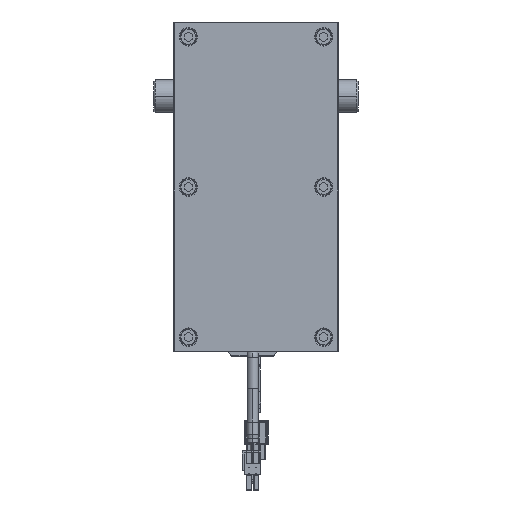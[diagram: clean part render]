
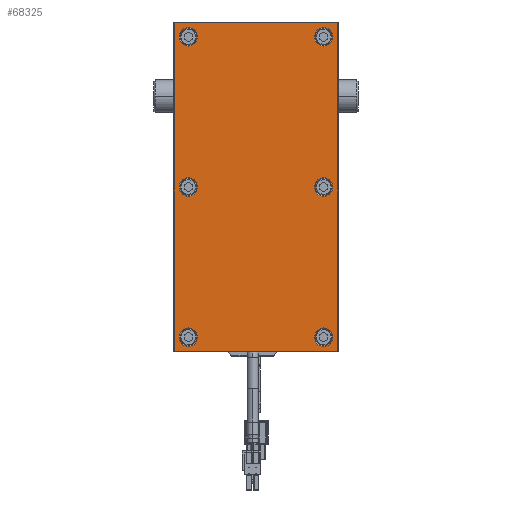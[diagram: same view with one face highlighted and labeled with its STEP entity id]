
A CAD part, front view. The second image highlights one B-rep face of the part: STEP entity #68325.
In plain terms, the highlighted planar face has unit normal (0, -1, 0).
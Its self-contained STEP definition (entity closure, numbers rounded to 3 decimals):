
#66914=CARTESIAN_POINT('',(99.,-7.,-49.));
#66915=DIRECTION('',(0.,-1.,0.));
#66916=DIRECTION('',(0.,0.,-1.));
#66917=AXIS2_PLACEMENT_3D('',#66914,#66915,#66916);
#66919=DIRECTION('',(1.,0.,0.));
#66920=VECTOR('',#66919,198.);
#66921=CARTESIAN_POINT('',(-99.,-7.,
-49.5));
#66922=LINE('',#66921,#66920);
#66923=CARTESIAN_POINT('',(-99.,-7.,-49.));
#66924=DIRECTION('',(0.,-1.,0.));
#66925=DIRECTION('',(-1.,0.,0.));
#66926=AXIS2_PLACEMENT_3D('',#66923,#66924,#66925);
#66928=DIRECTION('',(0.,0.,-1.));
#66929=VECTOR('',#66928,98.);
#66930=CARTESIAN_POINT('',(-99.5,-7.,
49.));
#66931=LINE('',#66930,#66929);
#66932=CARTESIAN_POINT('',(-99.,-7.,49.));
#66933=DIRECTION('',(0.,-1.,0.));
#66934=DIRECTION('',(0.,0.,1.));
#66935=AXIS2_PLACEMENT_3D('',#66932,#66933,#66934);
#66937=DIRECTION('',(-1.,0.,0.));
#66938=VECTOR('',#66937,198.);
#66939=CARTESIAN_POINT('',(99.,-7.,
49.5));
#66940=LINE('',#66939,#66938);
#66941=CARTESIAN_POINT('',(99.,-7.,49.));
#66942=DIRECTION('',(0.,-1.,0.));
#66943=DIRECTION('',(1.,0.,0.));
#66944=AXIS2_PLACEMENT_3D('',#66941,#66942,#66943);
#66946=DIRECTION('',(0.,0.,1.));
#66947=VECTOR('',#66946,98.);
#66948=CARTESIAN_POINT('',(99.5,-7.,
-49.));
#66949=LINE('',#66948,#66947);
#66950=CARTESIAN_POINT('',(-91.,-7.,-41.));
#66951=DIRECTION('',(0.,1.,0.));
#66952=DIRECTION('',(1.,0.,0.));
#66953=AXIS2_PLACEMENT_3D('',#66950,#66951,#66952);
#66955=CARTESIAN_POINT('',(-91.,-7.,-41.));
#66956=DIRECTION('',(0.,1.,0.));
#66957=DIRECTION('',(-1.,0.,0.));
#66958=AXIS2_PLACEMENT_3D('',#66955,#66956,#66957);
#66960=CARTESIAN_POINT('',(0.,-7.,-41.));
#66961=DIRECTION('',(0.,1.,0.));
#66962=DIRECTION('',(1.,0.,0.));
#66963=AXIS2_PLACEMENT_3D('',#66960,#66961,#66962);
#66965=CARTESIAN_POINT('',(0.,-7.,-41.));
#66966=DIRECTION('',(0.,1.,0.));
#66967=DIRECTION('',(-1.,0.,0.));
#66968=AXIS2_PLACEMENT_3D('',#66965,#66966,#66967);
#66970=CARTESIAN_POINT('',(91.,-7.,-41.));
#66971=DIRECTION('',(0.,1.,0.));
#66972=DIRECTION('',(1.,0.,0.));
#66973=AXIS2_PLACEMENT_3D('',#66970,#66971,#66972);
#66975=CARTESIAN_POINT('',(91.,-7.,-41.));
#66976=DIRECTION('',(0.,1.,0.));
#66977=DIRECTION('',(-1.,0.,0.));
#66978=AXIS2_PLACEMENT_3D('',#66975,#66976,#66977);
#66980=CARTESIAN_POINT('',(91.,-7.,41.));
#66981=DIRECTION('',(0.,1.,0.));
#66982=DIRECTION('',(1.,0.,0.));
#66983=AXIS2_PLACEMENT_3D('',#66980,#66981,#66982);
#66985=CARTESIAN_POINT('',(91.,-7.,41.));
#66986=DIRECTION('',(0.,1.,0.));
#66987=DIRECTION('',(-1.,0.,0.));
#66988=AXIS2_PLACEMENT_3D('',#66985,#66986,#66987);
#66990=CARTESIAN_POINT('',(0.,-7.,41.));
#66991=DIRECTION('',(0.,1.,0.));
#66992=DIRECTION('',(1.,0.,0.));
#66993=AXIS2_PLACEMENT_3D('',#66990,#66991,#66992);
#66995=CARTESIAN_POINT('',(0.,-7.,41.));
#66996=DIRECTION('',(0.,1.,0.));
#66997=DIRECTION('',(-1.,0.,0.));
#66998=AXIS2_PLACEMENT_3D('',#66995,#66996,#66997);
#67000=CARTESIAN_POINT('',(-91.,-7.,41.));
#67001=DIRECTION('',(0.,1.,0.));
#67002=DIRECTION('',(1.,0.,0.));
#67003=AXIS2_PLACEMENT_3D('',#67000,#67001,#67002);
#67005=CARTESIAN_POINT('',(-91.,-7.,41.));
#67006=DIRECTION('',(0.,1.,0.));
#67007=DIRECTION('',(-1.,0.,0.));
#67008=AXIS2_PLACEMENT_3D('',#67005,#67006,#67007);
#68066=CARTESIAN_POINT('',(99.,-7.,-49.5));
#68067=CARTESIAN_POINT('',(99.5,-7.,-49.));
#68068=VERTEX_POINT('',#68066);
#68069=VERTEX_POINT('',#68067);
#68074=CARTESIAN_POINT('',(99.5,-7.,
49.));
#68075=VERTEX_POINT('',#68074);
#68078=CARTESIAN_POINT('',(99.,-7.,49.5));
#68079=VERTEX_POINT('',#68078);
#68082=CARTESIAN_POINT('',(-99.,-7.,
49.5));
#68083=VERTEX_POINT('',#68082);
#68086=CARTESIAN_POINT('',(-99.5,-7.,49.));
#68087=VERTEX_POINT('',#68086);
#68090=CARTESIAN_POINT('',(-99.5,-7.,
-49.));
#68091=VERTEX_POINT('',#68090);
#68094=CARTESIAN_POINT('',(-99.,-7.,-49.5));
#68095=VERTEX_POINT('',#68094);
#68122=CARTESIAN_POINT('',(-85.45,-7.,-41.));
#68123=CARTESIAN_POINT('',(-96.55,-7.,-41.));
#68124=VERTEX_POINT('',#68122);
#68125=VERTEX_POINT('',#68123);
#68138=CARTESIAN_POINT('',(5.55,-7.,-41.));
#68139=CARTESIAN_POINT('',(-5.55,-7.,-41.));
#68140=VERTEX_POINT('',#68138);
#68141=VERTEX_POINT('',#68139);
#68162=CARTESIAN_POINT('',(96.55,-7.,-41.));
#68163=CARTESIAN_POINT('',(85.45,-7.,-41.));
#68164=VERTEX_POINT('',#68162);
#68165=VERTEX_POINT('',#68163);
#68178=CARTESIAN_POINT('',(96.55,-7.,41.));
#68179=CARTESIAN_POINT('',(85.45,-7.,41.));
#68180=VERTEX_POINT('',#68178);
#68181=VERTEX_POINT('',#68179);
#68186=CARTESIAN_POINT('',(5.55,-7.,41.));
#68187=CARTESIAN_POINT('',(-5.55,-7.,41.));
#68188=VERTEX_POINT('',#68186);
#68189=VERTEX_POINT('',#68187);
#68210=CARTESIAN_POINT('',(-85.45,-7.,41.));
#68211=CARTESIAN_POINT('',(-96.55,-7.,41.));
#68212=VERTEX_POINT('',#68210);
#68213=VERTEX_POINT('',#68211);
#68266=CARTESIAN_POINT('',(0.,-7.,0.));
#68267=DIRECTION('',(0.,1.,0.));
#68268=DIRECTION('',(1.,0.,0.));
#68269=AXIS2_PLACEMENT_3D('',#68266,#68267,#68268);
#68270=PLANE('',#68269);
#68272=ORIENTED_EDGE('',*,*,#68271,.F.);
#68274=ORIENTED_EDGE('',*,*,#68273,.F.);
#68276=ORIENTED_EDGE('',*,*,#68275,.F.);
#68278=ORIENTED_EDGE('',*,*,#68277,.F.);
#68280=ORIENTED_EDGE('',*,*,#68279,.F.);
#68282=ORIENTED_EDGE('',*,*,#68281,.F.);
#68284=ORIENTED_EDGE('',*,*,#68283,.F.);
#68286=ORIENTED_EDGE('',*,*,#68285,.F.);
#68287=EDGE_LOOP('',(#68272,#68274,#68276,#68278,#68280,#68282,#68284,#68286));
#68288=FACE_OUTER_BOUND('',#68287,.F.);
#68290=ORIENTED_EDGE('',*,*,#68289,.F.);
#68292=ORIENTED_EDGE('',*,*,#68291,.F.);
#68293=EDGE_LOOP('',(#68290,#68292));
#68294=FACE_BOUND('',#68293,.F.);
#68296=ORIENTED_EDGE('',*,*,#68295,.F.);
#68298=ORIENTED_EDGE('',*,*,#68297,.F.);
#68299=EDGE_LOOP('',(#68296,#68298));
#68300=FACE_BOUND('',#68299,.F.);
#68302=ORIENTED_EDGE('',*,*,#68301,.F.);
#68304=ORIENTED_EDGE('',*,*,#68303,.F.);
#68305=EDGE_LOOP('',(#68302,#68304));
#68306=FACE_BOUND('',#68305,.F.);
#68308=ORIENTED_EDGE('',*,*,#68307,.F.);
#68310=ORIENTED_EDGE('',*,*,#68309,.F.);
#68311=EDGE_LOOP('',(#68308,#68310));
#68312=FACE_BOUND('',#68311,.F.);
#68314=ORIENTED_EDGE('',*,*,#68313,.F.);
#68316=ORIENTED_EDGE('',*,*,#68315,.F.);
#68317=EDGE_LOOP('',(#68314,#68316));
#68318=FACE_BOUND('',#68317,.F.);
#68320=ORIENTED_EDGE('',*,*,#68319,.F.);
#68322=ORIENTED_EDGE('',*,*,#68321,.F.);
#68323=EDGE_LOOP('',(#68320,#68322));
#68324=FACE_BOUND('',#68323,.F.);
#68325=ADVANCED_FACE('',(#68288,#68294,#68300,#68306,#68312,#68318,#68324),
#68270,.F.);
#66918=CIRCLE('',#66917,0.5);
#66927=CIRCLE('',#66926,0.5);
#66936=CIRCLE('',#66935,0.5);
#66945=CIRCLE('',#66944,0.5);
#66954=CIRCLE('',#66953,5.55);
#66959=CIRCLE('',#66958,5.55);
#66964=CIRCLE('',#66963,5.55);
#66969=CIRCLE('',#66968,5.55);
#66974=CIRCLE('',#66973,5.55);
#66979=CIRCLE('',#66978,5.55);
#66984=CIRCLE('',#66983,5.55);
#66989=CIRCLE('',#66988,5.55);
#66994=CIRCLE('',#66993,5.55);
#66999=CIRCLE('',#66998,5.55);
#67004=CIRCLE('',#67003,5.55);
#67009=CIRCLE('',#67008,5.55);
#68271=EDGE_CURVE('',#68068,#68069,#66918,.T.);
#68273=EDGE_CURVE('',#68095,#68068,#66922,.T.);
#68275=EDGE_CURVE('',#68091,#68095,#66927,.T.);
#68277=EDGE_CURVE('',#68087,#68091,#66931,.T.);
#68279=EDGE_CURVE('',#68083,#68087,#66936,.T.);
#68281=EDGE_CURVE('',#68079,#68083,#66940,.T.);
#68283=EDGE_CURVE('',#68075,#68079,#66945,.T.);
#68285=EDGE_CURVE('',#68069,#68075,#66949,.T.);
#68289=EDGE_CURVE('',#68124,#68125,#66954,.T.);
#68291=EDGE_CURVE('',#68125,#68124,#66959,.T.);
#68295=EDGE_CURVE('',#68140,#68141,#66964,.T.);
#68297=EDGE_CURVE('',#68141,#68140,#66969,.T.);
#68301=EDGE_CURVE('',#68164,#68165,#66974,.T.);
#68303=EDGE_CURVE('',#68165,#68164,#66979,.T.);
#68307=EDGE_CURVE('',#68180,#68181,#66984,.T.);
#68309=EDGE_CURVE('',#68181,#68180,#66989,.T.);
#68313=EDGE_CURVE('',#68188,#68189,#66994,.T.);
#68315=EDGE_CURVE('',#68189,#68188,#66999,.T.);
#68319=EDGE_CURVE('',#68212,#68213,#67004,.T.);
#68321=EDGE_CURVE('',#68213,#68212,#67009,.T.);
